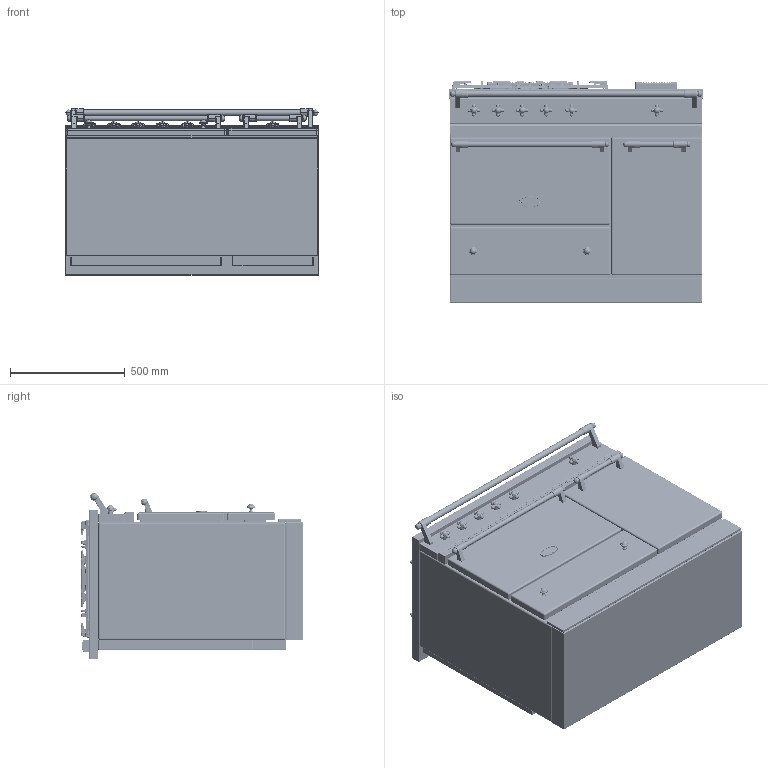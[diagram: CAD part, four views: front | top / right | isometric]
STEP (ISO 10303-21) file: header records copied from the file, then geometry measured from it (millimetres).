
FILE_DESCRIPTION((''),'2;1');
FILE_NAME('LG1142_SAVIGNY_ASM','2021-12-02T10:21:25',('r.avril'),(''),'CREO PARAMETRIC BY PTC INC, 2017260','CREO PARAMETRIC BY PTC INC, 2017260','');
FILE_SCHEMA(('AP203_CONFIGURATION_CONTROLLED_3D_DESIGN_OF_MECHANICAL_PARTS_AND_ASSEMBLIES_MIM_LF { 1 0 10303 403 2 1 2 }'));
Products named in the file (26): BASE_EXPORT_CHAMBERTIN_LG1141; 65650003; 65650004; 6531940; 6531941; 6531943; 65049009; 65650001; 6538399; 1931942; 65080022_AF0; 6531942_ASM; BASE_EXPORT_SAVIGNY_LG1142_ASM; TABLE_1105D_CLASSIQUE_4_FEUX; 3KW; 1_5KW; 4KW; 6537023; 65149005; 90000565_ASM; 6537026; 90000566_ASM; CHEMINEE_2020_LG182_EXPORT_STEP; CHEMINEE_2020_LG371_EXPORT_STEP; TABLE_1105D_CLASSIQUE_4_FEUX_ASM; LG1142_SAVIGNY_ASM
Assembly tree (42 placements, depth 4):
  LG1142_SAVIGNY_ASM
    BASE_EXPORT_SAVIGNY_LG1142_ASM
      BASE_EXPORT_CHAMBERTIN_LG1141
      65650003
      65650004
      6531940  x2
      6531941  x2
      6531943  x2
      65049009
      65650001
      6531942_ASM  x6
        6538399
        1931942
        65080022_AF0
    TABLE_1105D_CLASSIQUE_4_FEUX_ASM
      TABLE_1105D_CLASSIQUE_4_FEUX
      3KW  x2
      1_5KW
      4KW
      90000565_ASM  x2
        6537023
        65149005
      90000566_ASM
        6537026
        65149005  x4
      CHEMINEE_2020_LG182_EXPORT_STEP
      CHEMINEE_2020_LG371_EXPORT_STEP
Bounding box: 1105 x 965 x 724 mm (x, y, z)
Volume: 400823559.7 mm3; surface area: 10366725.2 mm2
Topology: 58 solids, 66 shells, 6694 faces, 16884 edges, 10300 vertices
Faces by surface type: plane 2587, cylinder 2072, bspline 1045, cone 305, torus 245, sphere 218, extrusion 210, revolution 12
Entity records: 170927 total; most frequent: CARTESIAN_POINT 56326, ORIENTED_EDGE 19628, DIRECTION 17701, EDGE_CURVE 9824, AXIS2_PLACEMENT_3D 6121, VERTEX_POINT 6027, VECTOR 5378, PRESENTATION_STYLE_ASSIGNMENT 5352
